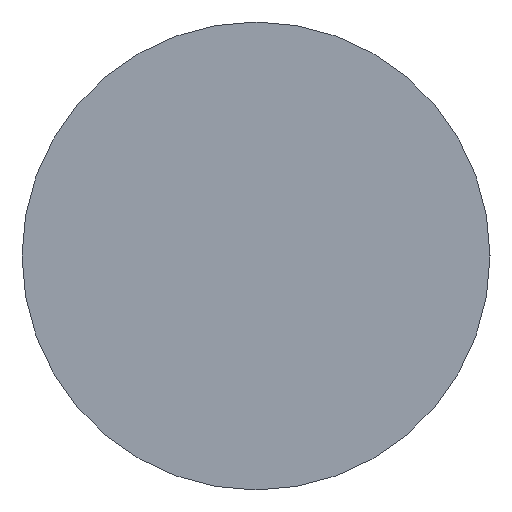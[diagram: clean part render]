
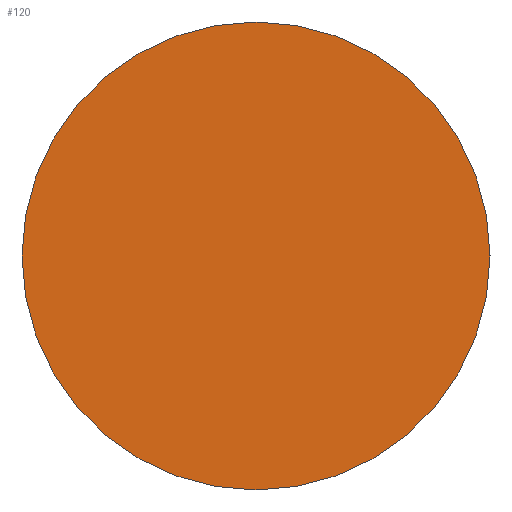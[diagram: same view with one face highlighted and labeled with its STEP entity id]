
A CAD part, left-side view. The second image highlights one B-rep face of the part: STEP entity #120.
In plain terms, the highlighted planar face has unit normal (-1, 0, 0).
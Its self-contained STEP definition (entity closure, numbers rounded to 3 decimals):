
#18 = ORIENTED_EDGE ( 'NONE', *, *, #210, .F. ) ;
#34 = DIRECTION ( 'NONE',  ( 0., 1., 0. ) ) ;
#57 = CARTESIAN_POINT ( 'NONE',  ( 0., 0., 0. ) ) ;
#58 = AXIS2_PLACEMENT_3D ( 'NONE', #70, #87, #234 ) ;
#65 = PLANE ( 'NONE',  #58 ) ;
#66 = VERTEX_POINT ( 'NONE', #117 ) ;
#69 = CARTESIAN_POINT ( 'NONE',  ( 0., 5., 0. ) ) ;
#70 = CARTESIAN_POINT ( 'NONE',  ( 0., 0., 0. ) ) ;
#87 = DIRECTION ( 'NONE',  ( -1., 0., 0. ) ) ;
#97 = CIRCLE ( 'NONE', #137, 5. ) ;
#105 = ORIENTED_EDGE ( 'NONE', *, *, #240, .F. ) ;
#117 = CARTESIAN_POINT ( 'NONE',  ( 0., -5., 0. ) ) ;
#118 = EDGE_LOOP ( 'NONE', ( #18, #105 ) ) ;
#120 = ADVANCED_FACE ( 'NONE', ( #142 ), #65, .T. ) ;
#125 = VERTEX_POINT ( 'NONE', #69 ) ;
#126 = DIRECTION ( 'NONE',  ( 0., 1., 0. ) ) ;
#137 = AXIS2_PLACEMENT_3D ( 'NONE', #57, #180, #34 ) ;
#142 = FACE_OUTER_BOUND ( 'NONE', #118, .T. ) ;
#145 = CARTESIAN_POINT ( 'NONE',  ( 0., 0., 0. ) ) ;
#180 = DIRECTION ( 'NONE',  ( 1., 0., 0. ) ) ;
#189 = AXIS2_PLACEMENT_3D ( 'NONE', #145, #268, #126 ) ;
#210 = EDGE_CURVE ( 'NONE', #125, #66, #219, .T. ) ;
#219 = CIRCLE ( 'NONE', #189, 5. ) ;
#234 = DIRECTION ( 'NONE',  ( 0., -1., 0. ) ) ;
#240 = EDGE_CURVE ( 'NONE', #66, #125, #97, .T. ) ;
#268 = DIRECTION ( 'NONE',  ( 1., 0., 0. ) ) ;
